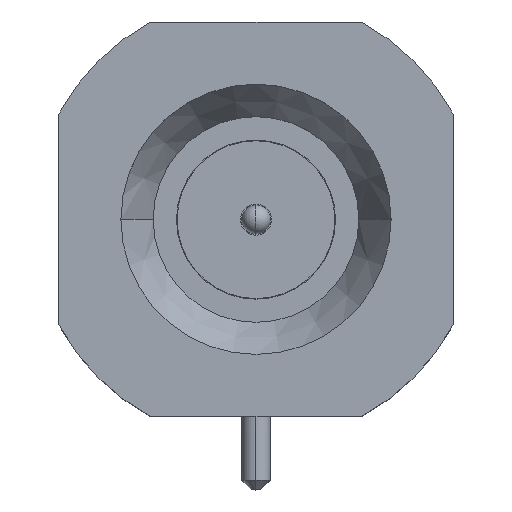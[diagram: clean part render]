
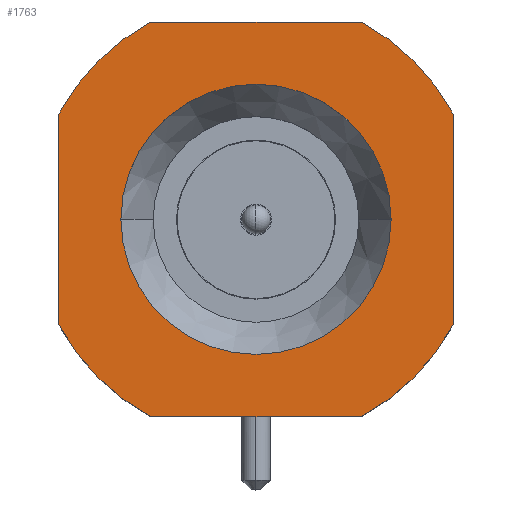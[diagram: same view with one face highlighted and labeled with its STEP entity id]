
A CAD part, top view. The second image highlights one B-rep face of the part: STEP entity #1763.
In plain terms, the highlighted planar face has unit normal (0, 0, 1).
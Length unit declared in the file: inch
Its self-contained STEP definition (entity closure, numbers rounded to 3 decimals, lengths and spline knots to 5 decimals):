
#14 = AXIS2_PLACEMENT_3D ( 'NONE', #912, #2501, #1146 ) ;
#32 = EDGE_LOOP ( 'NONE', ( #1109, #1182, #2694, #2784, #1147, #2205, #654, #1918 ) ) ;
#59 = CARTESIAN_POINT ( 'NONE',  ( -0.0825, -0.044, 0. ) ) ;
#136 = CARTESIAN_POINT ( 'NONE',  ( 0., 0., 0. ) ) ;
#216 = VERTEX_POINT ( 'NONE', #234 ) ;
#234 = CARTESIAN_POINT ( 'NONE',  ( 0.0825, -0.044, 0. ) ) ;
#307 = EDGE_CURVE ( 'NONE', #2704, #2307, #1842, .T. ) ;
#341 = CARTESIAN_POINT ( 'NONE',  ( -0.0825, 0.044, 0. ) ) ;
#342 = VECTOR ( 'NONE', #980, 39.37008 ) ;
#352 = DIRECTION ( 'NONE',  ( 0., 0., -1. ) ) ;
#359 = DIRECTION ( 'NONE',  ( 1., 0., 0. ) ) ;
#392 = FACE_OUTER_BOUND ( 'NONE', #32, .T. ) ;
#400 = CIRCLE ( 'NONE', #1226, 0.0565 ) ;
#431 = DIRECTION ( 'NONE',  ( 1., 0., 0. ) ) ;
#522 = DIRECTION ( 'NONE',  ( -1., 0., 0. ) ) ;
#594 = CARTESIAN_POINT ( 'NONE',  ( 0.0565, 0., 0. ) ) ;
#595 = CARTESIAN_POINT ( 'NONE',  ( 0.0825, 0.044, 0. ) ) ;
#653 = CIRCLE ( 'NONE', #2908, 0.0565 ) ;
#654 = ORIENTED_EDGE ( 'NONE', *, *, #1999, .F. ) ;
#678 = EDGE_CURVE ( 'NONE', #1706, #216, #1134, .T. ) ;
#753 = CIRCLE ( 'NONE', #2040, 0.0935 ) ;
#773 = VERTEX_POINT ( 'NONE', #341 ) ;
#793 = CARTESIAN_POINT ( 'NONE',  ( 0., 0., 0. ) ) ;
#819 = VERTEX_POINT ( 'NONE', #594 ) ;
#912 = CARTESIAN_POINT ( 'NONE',  ( 0., 0., 0. ) ) ;
#951 = EDGE_CURVE ( 'NONE', #1217, #216, #1690, .T. ) ;
#960 = CARTESIAN_POINT ( 'NONE',  ( -0.0825, 0.0825, 0. ) ) ;
#973 = CARTESIAN_POINT ( 'NONE',  ( 0.0825, -0.0825, 0. ) ) ;
#980 = DIRECTION ( 'NONE',  ( 0., -1., 0. ) ) ;
#1012 = DIRECTION ( 'NONE',  ( 1., 0., 0. ) ) ;
#1091 = CARTESIAN_POINT ( 'NONE',  ( 0., 0., 0. ) ) ;
#1109 = ORIENTED_EDGE ( 'NONE', *, *, #951, .F. ) ;
#1115 = CARTESIAN_POINT ( 'NONE',  ( 0., 0., 0. ) ) ;
#1122 = CARTESIAN_POINT ( 'NONE',  ( 0., 0., 0. ) ) ;
#1127 = VERTEX_POINT ( 'NONE', #2442 ) ;
#1134 = CIRCLE ( 'NONE', #1654, 0.0935 ) ;
#1146 = DIRECTION ( 'NONE',  ( 1., 0., 0. ) ) ;
#1147 = ORIENTED_EDGE ( 'NONE', *, *, #1582, .F. ) ;
#1182 = ORIENTED_EDGE ( 'NONE', *, *, #2924, .T. ) ;
#1185 = EDGE_CURVE ( 'NONE', #2458, #2326, #2813, .T. ) ;
#1210 = CARTESIAN_POINT ( 'NONE',  ( 0.0825, 0.0825, 0. ) ) ;
#1217 = VERTEX_POINT ( 'NONE', #595 ) ;
#1226 = AXIS2_PLACEMENT_3D ( 'NONE', #793, #2371, #1012 ) ;
#1253 = CARTESIAN_POINT ( 'NONE',  ( 0., 0., 0. ) ) ;
#1321 = DIRECTION ( 'NONE',  ( 1., 0., 0. ) ) ;
#1345 = DIRECTION ( 'NONE',  ( 1., 0., 0. ) ) ;
#1353 = DIRECTION ( 'NONE',  ( 1., 0., 0. ) ) ;
#1551 = VECTOR ( 'NONE', #522, 39.37008 ) ;
#1570 = CARTESIAN_POINT ( 'NONE',  ( -0.044, 0.0825, 0. ) ) ;
#1582 = EDGE_CURVE ( 'NONE', #2704, #773, #1872, .T. ) ;
#1618 = AXIS2_PLACEMENT_3D ( 'NONE', #136, #1712, #359 ) ;
#1654 = AXIS2_PLACEMENT_3D ( 'NONE', #1091, #2669, #1321 ) ;
#1690 = LINE ( 'NONE', #1210, #342 ) ;
#1706 = VERTEX_POINT ( 'NONE', #2124 ) ;
#1712 = DIRECTION ( 'NONE',  ( 0., 0., 1. ) ) ;
#1750 = CIRCLE ( 'NONE', #14, 0.0935 ) ;
#1763 = ADVANCED_FACE ( 'NONE', ( #392, #2192 ), #2832, .F. ) ;
#1829 = ORIENTED_EDGE ( 'NONE', *, *, #2182, .F. ) ;
#1842 = CIRCLE ( 'NONE', #1618, 0.0935 ) ;
#1872 = LINE ( 'NONE', #960, #2020 ) ;
#1918 = ORIENTED_EDGE ( 'NONE', *, *, #678, .T. ) ;
#1936 = DIRECTION ( 'NONE',  ( -1., 0., 0. ) ) ;
#1950 = EDGE_LOOP ( 'NONE', ( #1829, #2728 ) ) ;
#1979 = CARTESIAN_POINT ( 'NONE',  ( -0.044, -0.0825, 0. ) ) ;
#1992 = CARTESIAN_POINT ( 'NONE',  ( 0.044, 0.0825, 0. ) ) ;
#1999 = EDGE_CURVE ( 'NONE', #1706, #2307, #2750, .T. ) ;
#2015 = CARTESIAN_POINT ( 'NONE',  ( 0.0825, 0.0825, 0. ) ) ;
#2020 = VECTOR ( 'NONE', #2545, 39.37008 ) ;
#2040 = AXIS2_PLACEMENT_3D ( 'NONE', #1115, #2693, #1345 ) ;
#2124 = CARTESIAN_POINT ( 'NONE',  ( 0.044, -0.0825, 0. ) ) ;
#2182 = EDGE_CURVE ( 'NONE', #819, #1127, #400, .T. ) ;
#2192 = FACE_BOUND ( 'NONE', #1950, .T. ) ;
#2205 = ORIENTED_EDGE ( 'NONE', *, *, #307, .T. ) ;
#2221 = VECTOR ( 'NONE', #431, 39.37008 ) ;
#2307 = VERTEX_POINT ( 'NONE', #1979 ) ;
#2326 = VERTEX_POINT ( 'NONE', #1992 ) ;
#2371 = DIRECTION ( 'NONE',  ( 0., 0., 1. ) ) ;
#2438 = EDGE_CURVE ( 'NONE', #1127, #819, #653, .T. ) ;
#2442 = CARTESIAN_POINT ( 'NONE',  ( -0.0565, 0., 0. ) ) ;
#2458 = VERTEX_POINT ( 'NONE', #1570 ) ;
#2501 = DIRECTION ( 'NONE',  ( 0., 0., 1. ) ) ;
#2545 = DIRECTION ( 'NONE',  ( 0., 1., 0. ) ) ;
#2669 = DIRECTION ( 'NONE',  ( 0., 0., 1. ) ) ;
#2693 = DIRECTION ( 'NONE',  ( 0., 0., 1. ) ) ;
#2694 = ORIENTED_EDGE ( 'NONE', *, *, #1185, .F. ) ;
#2698 = DIRECTION ( 'NONE',  ( 0., 0., 1. ) ) ;
#2704 = VERTEX_POINT ( 'NONE', #59 ) ;
#2709 = AXIS2_PLACEMENT_3D ( 'NONE', #1253, #352, #1936 ) ;
#2728 = ORIENTED_EDGE ( 'NONE', *, *, #2438, .F. ) ;
#2750 = LINE ( 'NONE', #973, #1551 ) ;
#2784 = ORIENTED_EDGE ( 'NONE', *, *, #2856, .T. ) ;
#2813 = LINE ( 'NONE', #2015, #2221 ) ;
#2832 = PLANE ( 'NONE',  #2709 ) ;
#2856 = EDGE_CURVE ( 'NONE', #2458, #773, #753, .T. ) ;
#2908 = AXIS2_PLACEMENT_3D ( 'NONE', #1122, #2698, #1353 ) ;
#2924 = EDGE_CURVE ( 'NONE', #1217, #2326, #1750, .T. ) ;
